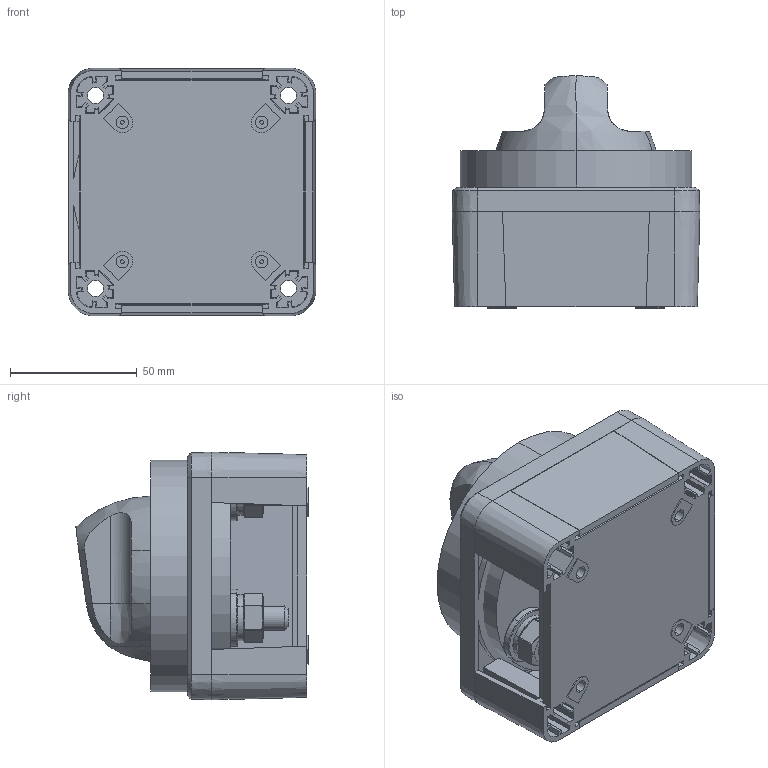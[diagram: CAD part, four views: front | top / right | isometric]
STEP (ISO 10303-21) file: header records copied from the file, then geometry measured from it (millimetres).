
FILE_DESCRIPTION (( 'STEP AP214' ), '1' );
FILE_NAME ('771-S Customer Model.STEP', '2020-07-29T18:48:05', ( '' ), ( '' ), 'SwSTEP 2.0', 'SolidWorks 2018', '' );
FILE_SCHEMA (( 'AUTOMOTIVE_DESIGN' ));
Length unit declared in the file: millimetre
Products named in the file (10): MSPM-167COMP_77X-SEL-TRMPLTASS_ASM; MSPM-154_77X-MAIN-BODY; MSC-161_M10-TERMINAL_RIVETED; MSC-174_M10-NUT-DIN934; mspm-150_77x-back-plate1; MSC-173_M10_SPRING-LOCK-WASHER; 771-S Customer Model; MSPM-151_77X-KNOB-RED1; mspm-158_77x-term-plate-sel; MSPM-165_77X-SIDE-PANEL
Assembly tree (17 placements, depth 3):
  771-S Customer Model
    MSPM-167COMP_77X-SEL-TRMPLTASS_ASM
      MSC-161_M10-TERMINAL_RIVETED  x3
      MSC-173_M10_SPRING-LOCK-WASHER  x3
      MSC-174_M10-NUT-DIN934  x3
    MSPM-154_77X-MAIN-BODY
    mspm-150_77x-back-plate1
    MSPM-165_77X-SIDE-PANEL  x3
    MSPM-151_77X-KNOB-RED1
    mspm-158_77x-term-plate-sel
Bounding box: 97.8 x 91.65 x 97.8 mm (x, y, z)
Volume: 400063.9 mm3; surface area: 117919.6 mm2
Topology: 16 solids, 16 shells, 733 faces, 1914 edges, 1244 vertices
Faces by surface type: plane 454, bspline 114, cylinder 113, cone 40, torus 12
Entity records: 21609 total; most frequent: CARTESIAN_POINT 7310, ORIENTED_EDGE 3032, DIRECTION 2657, EDGE_CURVE 1516, LINE 1137, VECTOR 1137, VERTEX_POINT 996, AXIS2_PLACEMENT_3D 760
